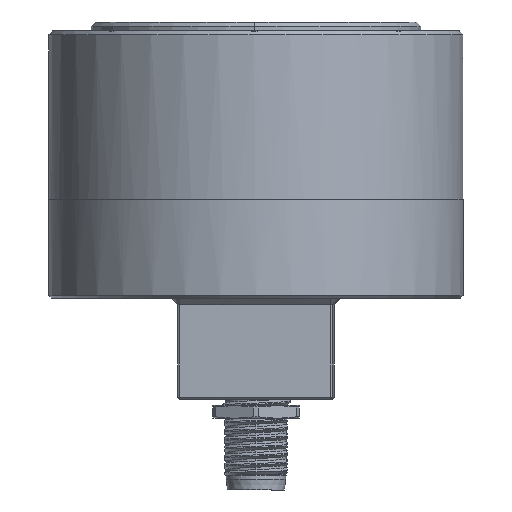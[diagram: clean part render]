
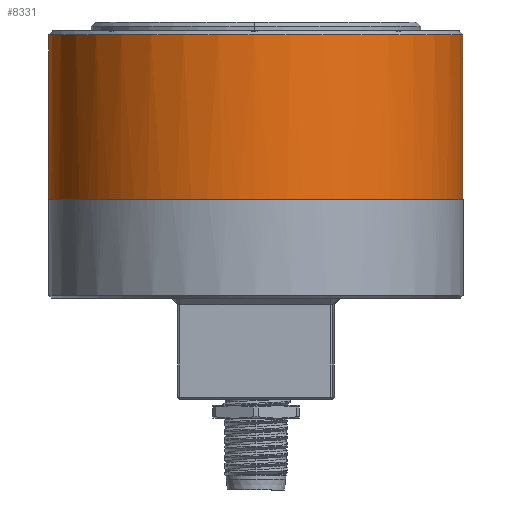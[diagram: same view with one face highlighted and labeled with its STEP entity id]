
A CAD part, front view. The second image highlights one B-rep face of the part: STEP entity #8331.
In plain terms, the highlighted cylindrical face has radius 24 mm (diameter 48 mm), a partial arc.
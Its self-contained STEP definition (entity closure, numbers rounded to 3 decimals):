
#331 = ORIENTED_EDGE ( 'NONE', *, *, #71655, .T. ) ;
#1867 = EDGE_CURVE ( 'NONE', #12579, #48075, #2702, .T. ) ;
#1923 = DIRECTION ( 'NONE',  ( 0., 0., 1. ) ) ;
#2063 = CARTESIAN_POINT ( 'NONE',  ( 23.994, -0.209, 11. ) ) ;
#2286 = CARTESIAN_POINT ( 'NONE',  ( 23.992, -0.396, 29.173 ) ) ;
#2702 = B_SPLINE_CURVE_WITH_KNOTS ( 'NONE', 3,
 ( #66235, #95680, #81731, #29462 ),
 .UNSPECIFIED., .F., .F.,
 ( 4, 4 ),
 ( 0., 1. ),
 .UNSPECIFIED. ) ;
#4089 = CARTESIAN_POINT ( 'NONE',  ( 23.986, -0.723, 28.716 ) ) ;
#4706 = EDGE_CURVE ( 'NONE', #76586, #12579, #89277, .T. ) ;
#4860 = AXIS2_PLACEMENT_3D ( 'NONE', #27342, #85419, #18178 ) ;
#8331 = ADVANCED_FACE ( 'NONE', ( #62682 ), #85897, .T. ) ;
#8670 = CARTESIAN_POINT ( 'NONE',  ( 23.977, -0.959, 29.963 ) ) ;
#9190 = DIRECTION ( 'NONE',  ( 0., 0., 1. ) ) ;
#10031 = AXIS2_PLACEMENT_3D ( 'NONE', #49421, #19918, #12157 ) ;
#12157 = DIRECTION ( 'NONE',  ( 1., 0., 0. ) ) ;
#12579 = VERTEX_POINT ( 'NONE', #42411 ) ;
#13224 = VERTEX_POINT ( 'NONE', #66618 ) ;
#13678 = ORIENTED_EDGE ( 'NONE', *, *, #90712, .F. ) ;
#17242 = ORIENTED_EDGE ( 'NONE', *, *, #86709, .T. ) ;
#17861 = CARTESIAN_POINT ( 'NONE',  ( -24.004, 0.209, 11. ) ) ;
#18178 = DIRECTION ( 'NONE',  ( 1., -0.009, 0. ) ) ;
#19918 = DIRECTION ( 'NONE',  ( 0., 0., 1. ) ) ;
#20215 = VECTOR ( 'NONE', #90090, 1000. ) ;
#22139 = CARTESIAN_POINT ( 'NONE',  ( 23.974, -1.002, 27.8 ) ) ;
#22180 = CARTESIAN_POINT ( 'NONE',  ( 23.974, -1.002, 27.8 ) ) ;
#22490 = ORIENTED_EDGE ( 'NONE', *, *, #28076, .T. ) ;
#22748 = CARTESIAN_POINT ( 'NONE',  ( 23.963, -1.241, 30.358 ) ) ;
#22962 = ORIENTED_EDGE ( 'NONE', *, *, #46931, .T. ) ;
#24672 = VERTEX_POINT ( 'NONE', #88936 ) ;
#24677 = CARTESIAN_POINT ( 'NONE',  ( -0.005, 0., 11.415 ) ) ;
#25410 = CARTESIAN_POINT ( 'NONE',  ( 23.974, -1.049, 28.258 ) ) ;
#25588 = DIRECTION ( 'NONE',  ( 0., 0., 1. ) ) ;
#25873 = CARTESIAN_POINT ( 'NONE',  ( 23.992, -0.396, 29.173 ) ) ;
#26812 = CARTESIAN_POINT ( 'NONE',  ( 23.994, -0.209, 11. ) ) ;
#27342 = CARTESIAN_POINT ( 'NONE',  ( -0.005, 0., 11. ) ) ;
#28076 = EDGE_CURVE ( 'NONE', #91467, #56384, #39768, .T. ) ;
#29462 = CARTESIAN_POINT ( 'NONE',  ( 23.994, -0.209, 29.435 ) ) ;
#29913 = VECTOR ( 'NONE', #48595, 1000. ) ;
#30717 = ORIENTED_EDGE ( 'NONE', *, *, #86122, .T. ) ;
#31400 = B_SPLINE_CURVE_WITH_KNOTS ( 'NONE', 3,
 ( #88974, #37731, #8670, #22748 ),
 .UNSPECIFIED., .F., .F.,
 ( 4, 4 ),
 ( 0., 1. ),
 .UNSPECIFIED. ) ;
#32146 = ORIENTED_EDGE ( 'NONE', *, *, #87862, .T. ) ;
#34414 = CARTESIAN_POINT ( 'NONE',  ( -0.005, 0., 27.8 ) ) ;
#35022 = ORIENTED_EDGE ( 'NONE', *, *, #51970, .T. ) ;
#35072 = CARTESIAN_POINT ( 'NONE',  ( 23.956, -1.375, 27.8 ) ) ;
#35310 = B_SPLINE_CURVE_WITH_KNOTS ( 'NONE', 3,
 ( #65698, #57489, #73859, #22180 ),
 .UNSPECIFIED., .F., .F.,
 ( 4, 4 ),
 ( 0., 1. ),
 .UNSPECIFIED. ) ;
#36088 = CIRCLE ( 'NONE', #57750, 24. ) ;
#37144 = CIRCLE ( 'NONE', #74149, 24. ) ;
#37731 = CARTESIAN_POINT ( 'NONE',  ( 23.987, -0.678, 29.568 ) ) ;
#37810 = CARTESIAN_POINT ( 'NONE',  ( 23.994, -0.209, 28.911 ) ) ;
#38970 = CARTESIAN_POINT ( 'NONE',  ( 23.994, -0.209, 29.435 ) ) ;
#39197 = DIRECTION ( 'NONE',  ( 1., 0., 0. ) ) ;
#39768 = B_SPLINE_CURVE_WITH_KNOTS ( 'NONE', 3,
 ( #35072, #25410, #4089, #25873 ),
 .UNSPECIFIED., .F., .F.,
 ( 4, 4 ),
 ( 0., 1. ),
 .UNSPECIFIED. ) ;
#39893 = LINE ( 'NONE', #26812, #29913 ) ;
#40152 = DIRECTION ( 'NONE',  ( 0.999, -0.036, 0. ) ) ;
#42052 = EDGE_CURVE ( 'NONE', #56384, #76586, #31400, .T. ) ;
#42411 = CARTESIAN_POINT ( 'NONE',  ( 23.979, -0.868, 30.358 ) ) ;
#44496 = CARTESIAN_POINT ( 'NONE',  ( -0.005, 0., 30.5 ) ) ;
#45374 = CIRCLE ( 'NONE', #62377, 24. ) ;
#45910 = VERTEX_POINT ( 'NONE', #22139 ) ;
#46931 = EDGE_CURVE ( 'NONE', #67941, #45910, #35310, .T. ) ;
#48075 = VERTEX_POINT ( 'NONE', #38970 ) ;
#48595 = DIRECTION ( 'NONE',  ( 0., 0., 1. ) ) ;
#49421 = CARTESIAN_POINT ( 'NONE',  ( -0.005, 0., 11.415 ) ) ;
#49844 = DIRECTION ( 'NONE',  ( 0., 0., 1. ) ) ;
#50192 = VERTEX_POINT ( 'NONE', #93528 ) ;
#51736 = EDGE_LOOP ( 'NONE', ( #13678, #17242, #35022, #331, #22962, #80224, #22490, #71222, #77343, #91339, #32146, #30717 ) ) ;
#51970 = EDGE_CURVE ( 'NONE', #13224, #64598, #36088, .T. ) ;
#56384 = VERTEX_POINT ( 'NONE', #2286 ) ;
#57489 = CARTESIAN_POINT ( 'NONE',  ( 23.992, -0.474, 28.541 ) ) ;
#57750 = AXIS2_PLACEMENT_3D ( 'NONE', #24677, #1923, #39197 ) ;
#58562 = DIRECTION ( 'NONE',  ( -1., 0.009, 0. ) ) ;
#59533 = DIRECTION ( 'NONE',  ( 0., 0., -1. ) ) ;
#61010 = CIRCLE ( 'NONE', #10031, 24. ) ;
#62377 = AXIS2_PLACEMENT_3D ( 'NONE', #44496, #59533, #58562 ) ;
#62682 = FACE_OUTER_BOUND ( 'NONE', #51736, .T. ) ;
#64598 = VERTEX_POINT ( 'NONE', #73257 ) ;
#65148 = CARTESIAN_POINT ( 'NONE',  ( 23.994, -0.209, 30.5 ) ) ;
#65698 = CARTESIAN_POINT ( 'NONE',  ( 23.994, -0.209, 28.911 ) ) ;
#66235 = CARTESIAN_POINT ( 'NONE',  ( 23.979, -0.868, 30.358 ) ) ;
#66394 = CARTESIAN_POINT ( 'NONE',  ( 23.956, -1.375, 27.8 ) ) ;
#66618 = CARTESIAN_POINT ( 'NONE',  ( -24.005, 0.105, 11.415 ) ) ;
#67860 = LINE ( 'NONE', #2063, #20215 ) ;
#67941 = VERTEX_POINT ( 'NONE', #37810 ) ;
#68907 = EDGE_CURVE ( 'NONE', #91467, #45910, #37144, .T. ) ;
#71222 = ORIENTED_EDGE ( 'NONE', *, *, #42052, .T. ) ;
#71655 = EDGE_CURVE ( 'NONE', #64598, #67941, #39893, .T. ) ;
#71806 = VECTOR ( 'NONE', #25588, 1000. ) ;
#72212 = CARTESIAN_POINT ( 'NONE',  ( 23.963, -1.241, 30.358 ) ) ;
#73257 = CARTESIAN_POINT ( 'NONE',  ( 23.994, -0.209, 11.415 ) ) ;
#73859 = CARTESIAN_POINT ( 'NONE',  ( 23.985, -0.738, 28.17 ) ) ;
#74149 = AXIS2_PLACEMENT_3D ( 'NONE', #34414, #49844, #92356 ) ;
#76586 = VERTEX_POINT ( 'NONE', #72212 ) ;
#76875 = CARTESIAN_POINT ( 'NONE',  ( -0.005, 0., 30.358 ) ) ;
#76929 = AXIS2_PLACEMENT_3D ( 'NONE', #76875, #9190, #40152 ) ;
#77343 = ORIENTED_EDGE ( 'NONE', *, *, #4706, .T. ) ;
#80224 = ORIENTED_EDGE ( 'NONE', *, *, #68907, .F. ) ;
#81366 = VERTEX_POINT ( 'NONE', #65148 ) ;
#81731 = CARTESIAN_POINT ( 'NONE',  ( 23.992, -0.429, 29.743 ) ) ;
#85419 = DIRECTION ( 'NONE',  ( 0., 0., 1. ) ) ;
#85897 = CYLINDRICAL_SURFACE ( 'NONE', #4860, 24. ) ;
#86122 = EDGE_CURVE ( 'NONE', #81366, #50192, #45374, .T. ) ;
#86709 = EDGE_CURVE ( 'NONE', #24672, #13224, #61010, .T. ) ;
#87862 = EDGE_CURVE ( 'NONE', #48075, #81366, #67860, .T. ) ;
#88936 = CARTESIAN_POINT ( 'NONE',  ( -24.004, 0.209, 11.415 ) ) ;
#88974 = CARTESIAN_POINT ( 'NONE',  ( 23.992, -0.396, 29.173 ) ) ;
#89277 = CIRCLE ( 'NONE', #76929, 24. ) ;
#90090 = DIRECTION ( 'NONE',  ( 0., 0., 1. ) ) ;
#90712 = EDGE_CURVE ( 'NONE', #24672, #50192, #91343, .T. ) ;
#91339 = ORIENTED_EDGE ( 'NONE', *, *, #1867, .T. ) ;
#91343 = LINE ( 'NONE', #17861, #71806 ) ;
#91467 = VERTEX_POINT ( 'NONE', #66394 ) ;
#92356 = DIRECTION ( 'NONE',  ( 0.999, -0.042, 0. ) ) ;
#93528 = CARTESIAN_POINT ( 'NONE',  ( -24.004, 0.209, 30.5 ) ) ;
#95680 = CARTESIAN_POINT ( 'NONE',  ( 23.987, -0.648, 30.05 ) ) ;
